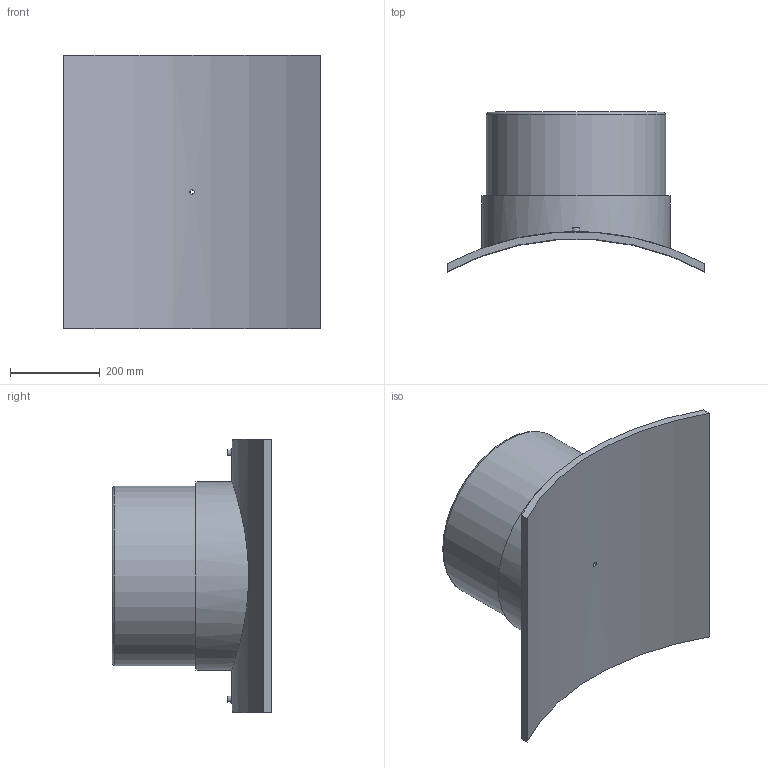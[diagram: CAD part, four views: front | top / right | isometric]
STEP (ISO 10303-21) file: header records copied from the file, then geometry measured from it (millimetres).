
FILE_DESCRIPTION(/* description */ ('PLASSON BRANCH SADDLE 1200x400'),/* implementation_level */ '2;1');
FILE_NAME(/* name */ 'C:\Dropbox\KIMPROJECTS-Inventor 2019\99-16-3568-Processing\ElectroFusion Fittings\495803\stp\4958031200400T.stp',/* time_stamp */ '2024-04-04T11:48:19+02:00',/* author */ ('KIM'),/* organization */ (''),/* preprocessor_version */ 'ST-DEVELOPER v17.2',/* originating_system */ 'Autodesk Inventor 2019',/* authorisation */ '');
FILE_SCHEMA (('AUTOMOTIVE_DESIGN { 1 0 10303 214 3 1 1 }'));
Length unit declared in the file: millimetre
Products named in the file (1): 4958031200400T
Bounding box: 574 x 356.09 x 610 mm (x, y, z)
Volume: 19782101.7 mm3; surface area: 1420124.2 mm2
Topology: 1 solids, 1 shells, 29 faces, 60 edges, 43 vertices
Faces by surface type: plane 13, cylinder 12, torus 2, cone 2
Full cylindrical faces by diameter (mm): 4 x2, 9.6 x1, 10 x2, 16 x1, 320 x1, 400 x1, 420 x1
Entity records: 1110 total; most frequent: CARTESIAN_POINT 424, DIRECTION 139, ORIENTED_EDGE 120, EDGE_CURVE 60, AXIS2_PLACEMENT_3D 60, VERTEX_POINT 43, EDGE_LOOP 41, CIRCLE 30
